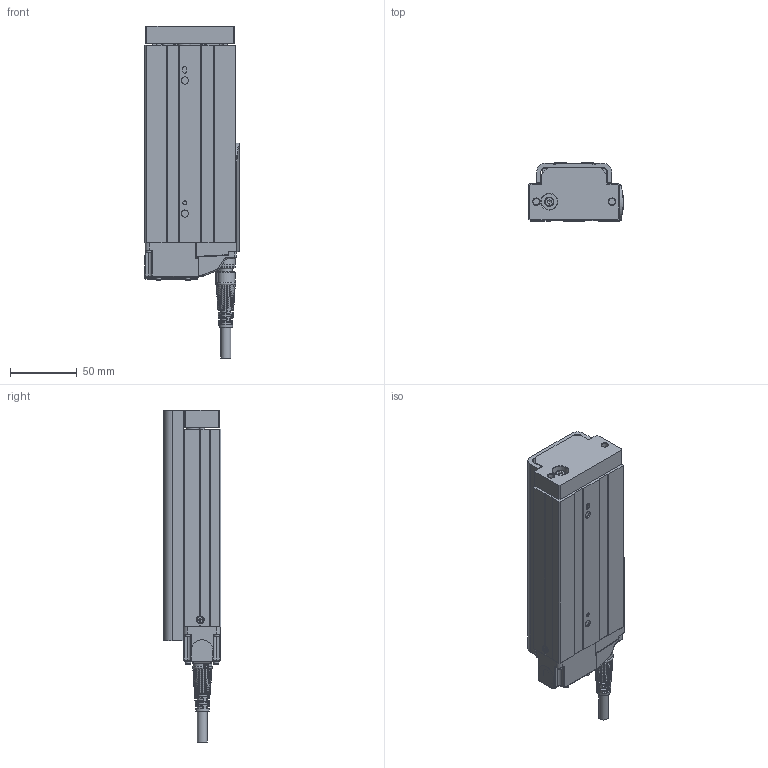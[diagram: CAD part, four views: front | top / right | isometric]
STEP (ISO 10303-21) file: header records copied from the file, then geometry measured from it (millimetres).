
FILE_DESCRIPTION(/* description */ ('STEP AP203'),/* implementation_level */ '2;1');
FILE_NAME(/* name */ 'D:\暫\2025.02.06 CSG 3D\CSG25-B\CSG25-S100-B.stp',/* time_stamp */ '2025-02-08T10:40:25+08:00',/* author */ ('T10033'),/* organization */ (''),/* preprocessor_version */ 'ST-DEVELOPER v18.1',/* originating_system */ 'Autodesk Inventor 2020',/* authorisation */ '');
FILE_SCHEMA (('CONFIG_CONTROL_DESIGN'));
Products named in the file (25): CSG25-50行程-煞車; ©T©wªO-·¥­­¾×ª
O4-M2¤ú; M12 -14PIN  ªOºÝ-²Ä¤@ºØ
³W®æ; countersunk flat head cross recess screw_iso_ISO 7046-1 - M2.5 x 4 - 
Z - 4N; ¶ì½¦ºÝ»-L¼Ë¦¡(TOYO)-°
t¦XPCB(·Ù¨®¥Î)-DF3±µÀYª½
±µ©ñ¤Jª©; IS 2269 - M2 x 10; ISO 4762 - M2.5 x 6ISO; PCB; M12-14PIN 線端180度接頭-05中繼線_
MIR; 43T34 TFSDR_Shrinkwrap_1; 4T3T6WS34TE35Y; countersunk flat head cross recess screw_iso_ISO 7046-1 - M2.5 x 4 - 
Z - 4N_1; ©T©wªO-·¥­­¾×ª
O4-M2¤ú_1; socket head cap screw_iso_ISO 4762 M2.5 x 6 - 6N; socket head cap screw_iso_ISO 4762 M2.5 x 8 - 8N; socket head cap screw_iso_ISO 4762 M2 x 12 - 12N; M12 -14PIN  ªOºÝ-²Ä¤@ºØ
³W®æ_1; CSG25-50¥»Åé3ª©-ªo¤Õ
½Õ¾ã¨¤«×; CSG25-Carriage-newtype; Solid1-2; socket head cap screw_iso_ISO 4762 M2.5 x 5 - 5N; 12003-000221-­×§ï; 22024-000496; CNS 3932 - M 4 x 0.7 x 12; CNS 4558 - M5 x 0.8 x 12
Assembly tree (36 placements, depth 3):
  CSG25-50行程-煞車
    ©T©wªO-·¥­­¾×ª
O4-M2¤ú
    M12 -14PIN  ªOºÝ-²Ä¤@ºØ
³W®æ
    countersunk flat head cross recess screw_iso_ISO 7046-1 - M2.5 x 4 - 
Z - 4N
    ¶ì½¦ºÝ»-L¼Ë¦¡(TOYO)-°
t¦XPCB(·Ù¨®¥Î)-DF3±µÀYª½
±µ©ñ¤Jª©
    IS 2269 - M2 x 10  x2
    ISO 4762 - M2.5 x 6ISO  x2
    PCB
    M12-14PIN 線端180度接頭-05中繼線_
MIR
    43T34 TFSDR_Shrinkwrap_1
    4T3T6WS34TE35Y
      socket head cap screw_iso_ISO 4762 M2.5 x 8 - 8N  x8
      countersunk flat head cross recess screw_iso_ISO 7046-1 - M2.5 x 4 - 
Z - 4N_1
      ©T©wªO-·¥­­¾×ª
O4-M2¤ú_1
      socket head cap screw_iso_ISO 4762 M2.5 x 6 - 6N  x2
      socket head cap screw_iso_ISO 4762 M2 x 12 - 12N  x2
      M12 -14PIN  ªOºÝ-²Ä¤@ºØ
³W®æ_1
      CSG25-50¥»Åé3ª©-ªo¤Õ
½Õ¾ã¨¤«×
      CSG25-Carriage-newtype
      Solid1-2
      socket head cap screw_iso_ISO 4762 M2.5 x 5 - 5N
      12003-000221-­×§ï
      22024-000496
      CNS 3932 - M 4 x 0.7 x 12
      CNS 4558 - M5 x 0.8 x 12  x2
Bounding box: 71.25 x 43.5 x 249.6 mm (x, y, z)
Volume: 436627.2 mm3; surface area: 109713.4 mm2
Topology: 53 solids, 56 shells, 3035 faces, 8273 edges, 5477 vertices
Faces by surface type: plane 1506, cylinder 583, bspline 491, cone 338, torus 107, sphere 10
Full cylindrical faces by diameter (mm): 0.6 x28, 0.65 x14, 0.8 x2, 1 x14, 1.567 x1, 1.6 x4, 2 x8, 2.05 x5, 2.5 x19, 2.9 x2, 3 x3, 3.8 x10, 4 x1, 4.134 x8, 4.5 x15, 4.7 x2, 5 x6, 5.3 x2, 5.4 x4, 5.5 x4, 6 x3, 7 x1, 7.5 x1, 8 x1, 8.9 x1, 9 x12, 9.5 x2, 9.6 x1, 10 x6, 10.4 x2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
Entity records: 106440 total; most frequent: CARTESIAN_POINT 33090, ORIENTED_EDGE 15330, DIRECTION 14378, EDGE_CURVE 7665, AXIS2_PLACEMENT_3D 5267, VERTEX_POINT 5099, LINE 3844, VECTOR 3844
